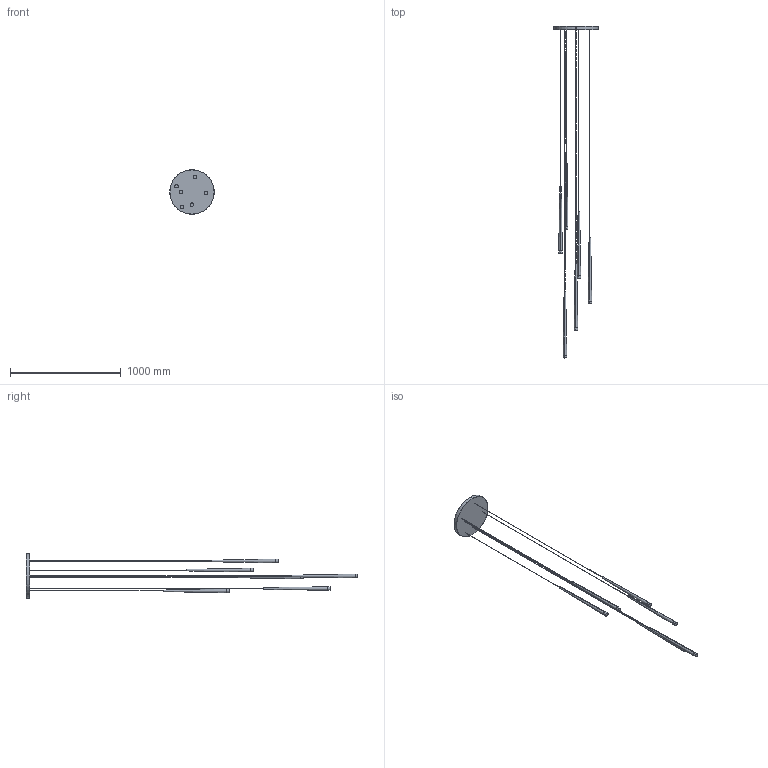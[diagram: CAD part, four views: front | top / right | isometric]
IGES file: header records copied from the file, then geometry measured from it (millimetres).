
Start section: SolidWorks IGES file using analytic representation for surfaces
Global section: file name: F:\燠隴矨\3D\10堎\10渾奻換\Slender Cone Chandelier-6H.IGS; native system: SolidWorks 2022; preprocessor: SolidWorks 2022; author: MyPC; date: 231014.175405; units: millimetre
Bounding box: 400 x 2993.09 x 400 mm (x, y, z)
Surface area: 675400.5 mm2 (no closed solid volume)
Topology: 0 solids, 0 shells, 79 faces, 2144 edges, 2144 vertices
Faces by surface type: revolution 40, bspline 39
